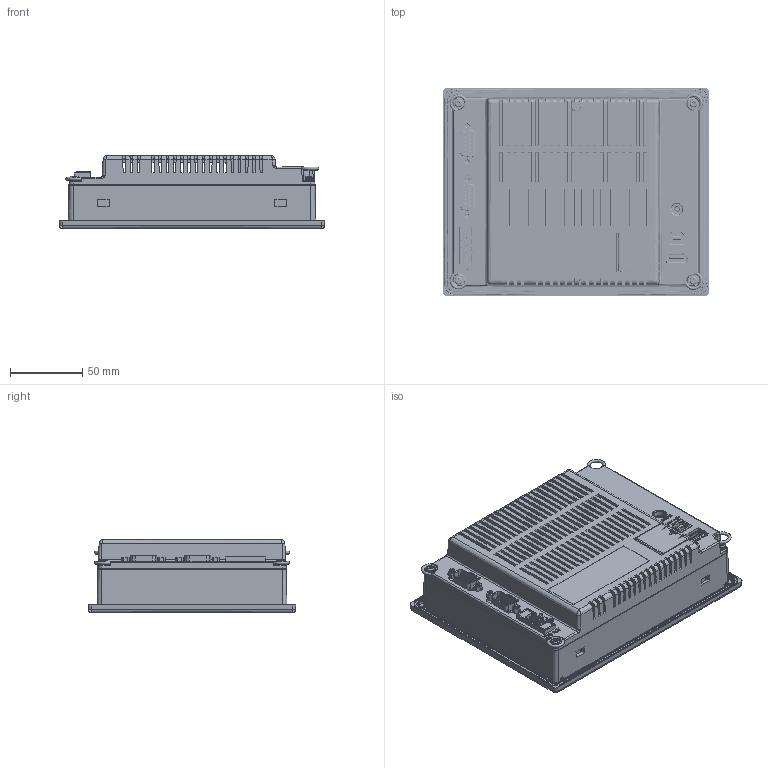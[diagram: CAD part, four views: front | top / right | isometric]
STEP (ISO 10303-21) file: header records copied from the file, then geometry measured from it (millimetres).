
FILE_DESCRIPTION((''),'2;1');
FILE_NAME('DOP-B05S200','2009-09-30T',('EDISON.TANG'),(''),'PRO/ENGINEER BY PARAMETRIC TECHNOLOGY CORPORATION, 2008230','PRO/ENGINEER BY PARAMETRIC TECHNOLOGY CORPORATION, 2008230','');
FILE_SCHEMA(('CONFIG_CONTROL_DESIGN'));
Products named in the file (1): DOP-B05S200
Bounding box: 184 x 144 x 50.8 mm (x, y, z)
Surface area: 204535.9 mm2 (no closed solid volume)
Topology: 0 solids, 0 shells, 3637 faces, 21688 edges, 22152 vertices
Faces by surface type: bspline 3471, torus 98, sphere 68
Entity records: 333571 total; most frequent: CARTESIAN_POINT 152135, DIRECTION 27590, TRIMMED_CURVE 25559, VECTOR 23862, LINE 23862, COMPOSITE_CURVE_SEGMENT 21029, DEFINITIONAL_REPRESENTATION 19554, PCURVE 19554
